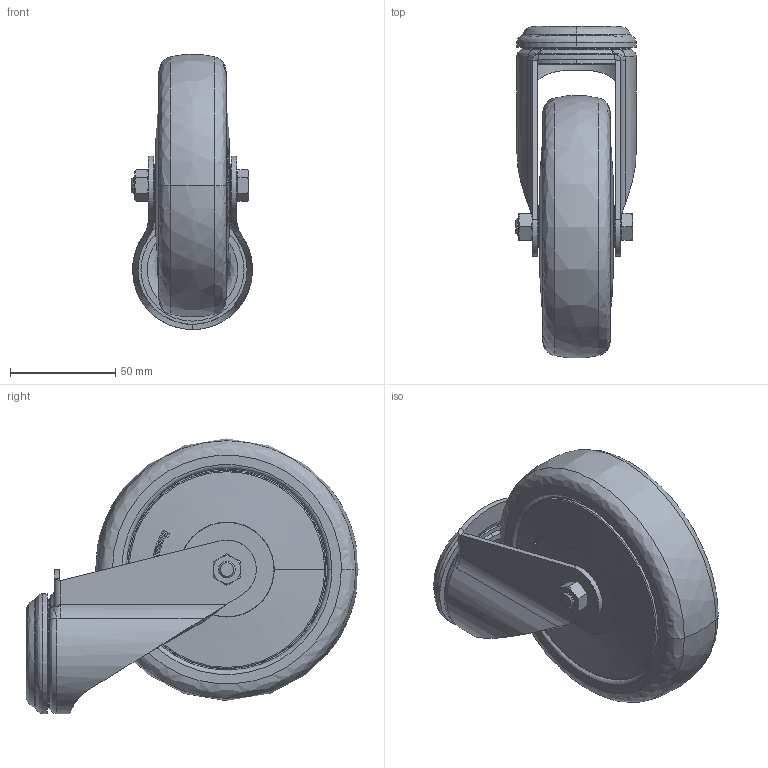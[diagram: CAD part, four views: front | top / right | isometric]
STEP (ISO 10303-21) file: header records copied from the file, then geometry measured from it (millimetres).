
FILE_DESCRIPTION (( 'STEP AP203' ), '1' );
FILE_NAME ('10311_LEN125.STEP', '2018-03-23T08:24:31', ( '' ), ( '' ), 'SwSTEP 2.0', 'SolidWorks 2017', '' );
FILE_SCHEMA (( 'CONFIG_CONTROL_DESIGN' ));
Length unit declared in the file: millimetre
Products named in the file (1): 10311_LEN125
Bounding box: 57.5 x 157.86 x 130.86 mm (x, y, z)
Volume: 443656.6 mm3; surface area: 67170.1 mm2
Topology: 3 solids, 3 shells, 954 faces, 2475 edges, 1615 vertices
Faces by surface type: plane 502, bspline 303, cone 107, cylinder 42
Entity records: 58188 total; most frequent: CARTESIAN_POINT 37766, ORIENTED_EDGE 4950, DIRECTION 2910, EDGE_CURVE 2475, VERTEX_POINT 1615, LINE 1132, VECTOR 1132, B_SPLINE_CURVE_WITH_KNOTS 1071
